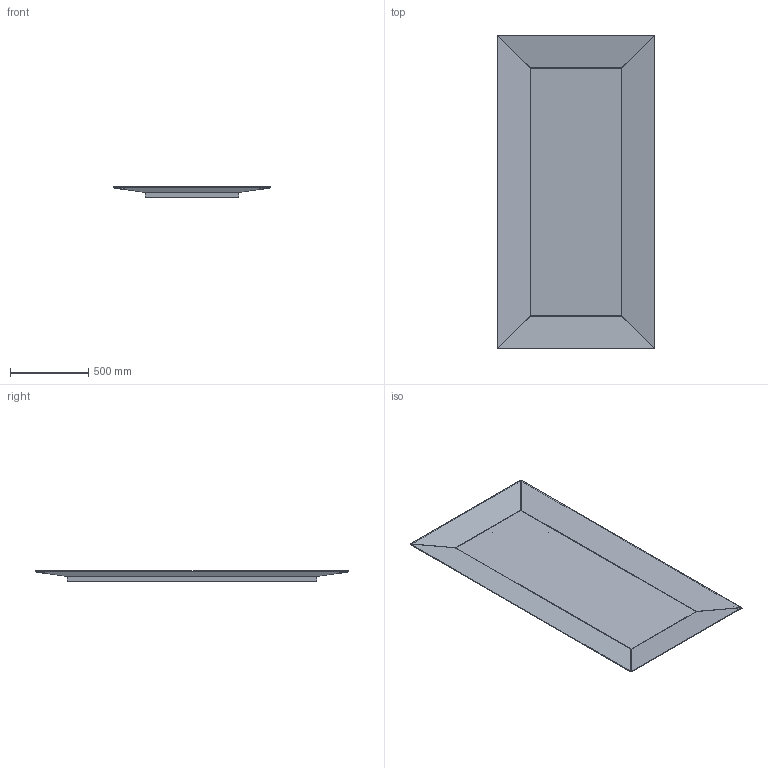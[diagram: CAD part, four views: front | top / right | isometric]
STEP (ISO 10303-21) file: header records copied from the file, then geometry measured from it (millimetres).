
FILE_DESCRIPTION((''),'2;1');
FILE_NAME('C:\AutodeskVault\AreaLavoro\Progetti\SoVeT Italia\3. Specchi_Mirrors\Denver\Web file\Denver Web\P5056 Horiz.stp','2012-07-23T14:21:58',('Gianluca'),('So.Ve.T. s.r.l.'),'Autodesk Inventor 2013','Autodesk Inventor 2013','IL PROGETTO E'' DI ESCLUSIVA PROPRIETA'' DELLA SO.VE.T. srl. E'' VIETATA OGNI RIPRODUZIONE TOTALE O PARZIALE E QUALSIASI UTILIZZO NON AUTORIZZATO. ');
FILE_SCHEMA(('AUTOMOTIVE_DESIGN { 1 0 10303 214 1 1 1 1 }'));
Length unit declared in the file: millimetre
Products named in the file (1): P5056 Contorno semplificato Orizz
Bounding box: 1006.01 x 2006.01 x 67.41 mm (x, y, z)
Volume: 19547040.8 mm3; surface area: 8492446.3 mm2
Topology: 2 solids, 2 shells, 332 faces, 808 edges, 464 vertices
Faces by surface type: plane 196, cylinder 96, bspline 16, torus 16, sphere 8
Entity records: 10170 total; most frequent: CARTESIAN_POINT 2149, ORIENTED_EDGE 1600, DIRECTION 1554, EDGE_CURVE 800, VECTOR 592, LINE 592, AXIS2_PLACEMENT_3D 481, VERTEX_POINT 464
